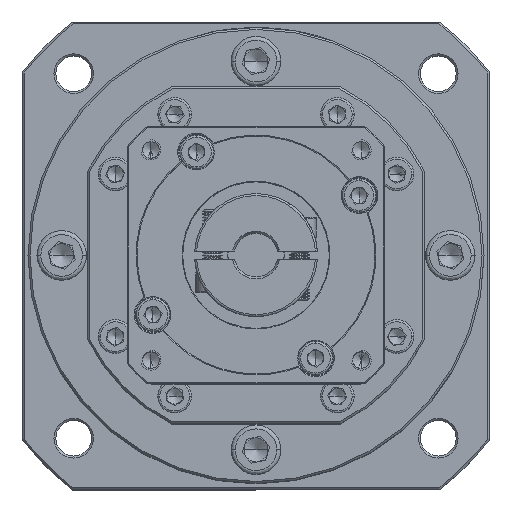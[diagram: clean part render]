
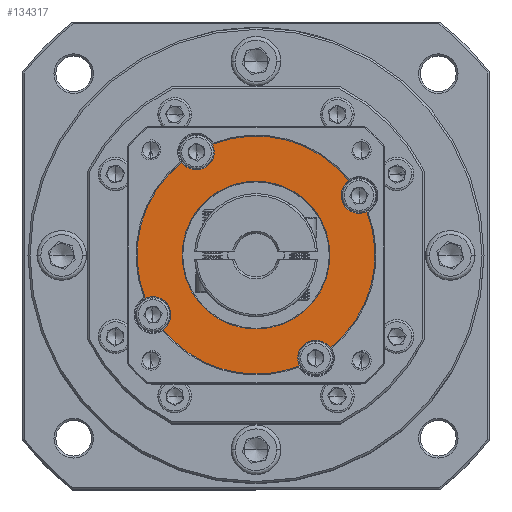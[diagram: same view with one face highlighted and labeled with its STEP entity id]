
A CAD part, top view. The second image highlights one B-rep face of the part: STEP entity #134317.
In plain terms, the highlighted planar face has unit normal (0, 0, 1).
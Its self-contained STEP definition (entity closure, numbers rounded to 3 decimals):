
#809 = CARTESIAN_POINT ( 'NONE',  ( 69.693, 82.025, -16.603 ) ) ;
#1561 = CARTESIAN_POINT ( 'NONE',  ( 58.748, 109.958, -16.603 ) ) ;
#1669 = VERTEX_POINT ( 'NONE', #48424 ) ;
#3085 = ORIENTED_EDGE ( 'NONE', *, *, #122668, .T. ) ;
#3277 = DIRECTION ( 'NONE',  ( 0., -1., 0. ) ) ;
#3468 = DIRECTION ( 'NONE',  ( 0., 0., 1. ) ) ;
#3667 = DIRECTION ( 'NONE',  ( 0., -1., 0. ) ) ;
#5246 = EDGE_CURVE ( 'NONE', #8863, #108288, #106325, .T. ) ;
#5723 = AXIS2_PLACEMENT_3D ( 'NONE', #49468, #121911, #132477 ) ;
#6743 = ORIENTED_EDGE ( 'NONE', *, *, #86055, .F. ) ;
#8026 = DIRECTION ( 'NONE',  ( 0., 0., -1. ) ) ;
#8863 = VERTEX_POINT ( 'NONE', #88912 ) ;
#10269 = CARTESIAN_POINT ( 'NONE',  ( 30.816, 99.013, -16.603 ) ) ;
#11952 = CARTESIAN_POINT ( 'NONE',  ( 43.748, 131.438, -16.603 ) ) ;
#13994 = DIRECTION ( 'NONE',  ( 0., -1., 0. ) ) ;
#14475 = DIRECTION ( 'NONE',  ( 0., -1., 0. ) ) ;
#16569 = AXIS2_PLACEMENT_3D ( 'NONE', #112404, #60762, #102314 ) ;
#17296 = ORIENTED_EDGE ( 'NONE', *, *, #124668, .T. ) ;
#17521 = CIRCLE ( 'NONE', #106790, 4.5 ) ;
#17674 = VERTEX_POINT ( 'NONE', #39072 ) ;
#18236 = VERTEX_POINT ( 'NONE', #10269 ) ;
#19118 = DIRECTION ( 'NONE',  ( 0., -1., 0. ) ) ;
#19137 = CARTESIAN_POINT ( 'NONE',  ( 58.748, 109.958, -16.603 ) ) ;
#21164 = AXIS2_PLACEMENT_3D ( 'NONE', #31840, #21229, #115762 ) ;
#21229 = DIRECTION ( 'NONE',  ( 0., 0., 1. ) ) ;
#22404 = CIRCLE ( 'NONE', #65323, 18.644 ) ;
#23412 = ORIENTED_EDGE ( 'NONE', *, *, #134586, .F. ) ;
#23440 = DIRECTION ( 'NONE',  ( 0., 0., 1. ) ) ;
#28796 = CIRCLE ( 'NONE', #41911, 30. ) ;
#31840 = CARTESIAN_POINT ( 'NONE',  ( 32.767, 94.958, -16.603 ) ) ;
#32312 = VERTEX_POINT ( 'NONE', #83420 ) ;
#34211 = DIRECTION ( 'NONE',  ( 0., -1., 0. ) ) ;
#35899 = CIRCLE ( 'NONE', #136851, 30. ) ;
#36101 = DIRECTION ( 'NONE',  ( 0., 0., -1. ) ) ;
#36482 = CIRCLE ( 'NONE', #126169, 18.644 ) ;
#36525 = CARTESIAN_POINT ( 'NONE',  ( 58.748, 79.958, -16.603 ) ) ;
#39072 = CARTESIAN_POINT ( 'NONE',  ( 35.303, 91.24, -16.603 ) ) ;
#39150 = EDGE_CURVE ( 'NONE', #119012, #1669, #104087, .T. ) ;
#39399 = DIRECTION ( 'NONE',  ( 0., -1., 0. ) ) ;
#40262 = EDGE_CURVE ( 'NONE', #77946, #18236, #17521, .T. ) ;
#40332 = AXIS2_PLACEMENT_3D ( 'NONE', #1561, #98359, #34211 ) ;
#40335 = EDGE_CURVE ( 'NONE', #43334, #70088, #22404, .T. ) ;
#40736 = EDGE_CURVE ( 'NONE', #78671, #74391, #122000, .T. ) ;
#41227 = CIRCLE ( 'NONE', #43699, 30. ) ;
#41336 = CARTESIAN_POINT ( 'NONE',  ( 58.748, 91.313, -16.603 ) ) ;
#41559 = DIRECTION ( 'NONE',  ( 0., 0., 1. ) ) ;
#41911 = AXIS2_PLACEMENT_3D ( 'NONE', #101955, #121730, #59018 ) ;
#43334 = VERTEX_POINT ( 'NONE', #79107 ) ;
#43699 = AXIS2_PLACEMENT_3D ( 'NONE', #55749, #46498, #3277 ) ;
#45693 = EDGE_CURVE ( 'NONE', #17674, #85439, #41227, .T. ) ;
#45704 = CIRCLE ( 'NONE', #50151, 4.5 ) ;
#46498 = DIRECTION ( 'NONE',  ( 0., 0., 1. ) ) ;
#48424 = CARTESIAN_POINT ( 'NONE',  ( 47.803, 137.89, -16.603 ) ) ;
#49468 = CARTESIAN_POINT ( 'NONE',  ( 84.729, 124.958, -16.603 ) ) ;
#50151 = AXIS2_PLACEMENT_3D ( 'NONE', #123522, #60377, #80664 ) ;
#50762 = CARTESIAN_POINT ( 'NONE',  ( 32.767, 99.458, -16.603 ) ) ;
#52240 = ORIENTED_EDGE ( 'NONE', *, *, #40262, .F. ) ;
#52795 = EDGE_LOOP ( 'NONE', ( #23412, #96170, #52240, #119943, #64776, #17296, #63284, #6743, #60415, #96073, #97947, #3085, #109592 ) ) ;
#55716 = DIRECTION ( 'NONE',  ( 0., 0., 1. ) ) ;
#55749 = CARTESIAN_POINT ( 'NONE',  ( 58.748, 109.958, -16.603 ) ) ;
#58644 = ORIENTED_EDGE ( 'NONE', *, *, #91731, .T. ) ;
#59018 = DIRECTION ( 'NONE',  ( 0., -1., 0. ) ) ;
#60377 = DIRECTION ( 'NONE',  ( 0., 0., 1. ) ) ;
#60415 = ORIENTED_EDGE ( 'NONE', *, *, #119122, .T. ) ;
#60762 = DIRECTION ( 'NONE',  ( 0., 0., 1. ) ) ;
#61986 = DIRECTION ( 'NONE',  ( 0., 0., 1. ) ) ;
#63284 = ORIENTED_EDGE ( 'NONE', *, *, #40736, .F. ) ;
#64776 = ORIENTED_EDGE ( 'NONE', *, *, #45693, .T. ) ;
#64943 = AXIS2_PLACEMENT_3D ( 'NONE', #115831, #41559, #115392 ) ;
#65323 = AXIS2_PLACEMENT_3D ( 'NONE', #67041, #36101, #13994 ) ;
#66347 = DIRECTION ( 'NONE',  ( 0., -1., 0. ) ) ;
#67041 = CARTESIAN_POINT ( 'NONE',  ( 58.748, 109.958, -16.603 ) ) ;
#67380 = CARTESIAN_POINT ( 'NONE',  ( 77.465, 86.513, -16.603 ) ) ;
#70088 = VERTEX_POINT ( 'NONE', #41336 ) ;
#71423 = AXIS2_PLACEMENT_3D ( 'NONE', #19137, #61986, #39399 ) ;
#71800 = PLANE ( 'NONE',  #16569 ) ;
#73501 = CIRCLE ( 'NONE', #64943, 4.5 ) ;
#74391 = VERTEX_POINT ( 'NONE', #809 ) ;
#77946 = VERTEX_POINT ( 'NONE', #50762 ) ;
#78671 = VERTEX_POINT ( 'NONE', #85195 ) ;
#79107 = CARTESIAN_POINT ( 'NONE',  ( 58.748, 128.602, -16.603 ) ) ;
#80664 = DIRECTION ( 'NONE',  ( 0., -1., 0. ) ) ;
#81248 = CIRCLE ( 'NONE', #21164, 4.5 ) ;
#83188 = CARTESIAN_POINT ( 'NONE',  ( 58.748, 109.958, -16.603 ) ) ;
#83420 = CARTESIAN_POINT ( 'NONE',  ( 40.03, 133.402, -16.603 ) ) ;
#85195 = CARTESIAN_POINT ( 'NONE',  ( 73.748, 88.477, -16.603 ) ) ;
#85439 = VERTEX_POINT ( 'NONE', #36525 ) ;
#86055 = EDGE_CURVE ( 'NONE', #115204, #78671, #45704, .T. ) ;
#88010 = CARTESIAN_POINT ( 'NONE',  ( 43.748, 135.938, -16.603 ) ) ;
#88912 = CARTESIAN_POINT ( 'NONE',  ( 82.193, 128.675, -16.603 ) ) ;
#91731 = EDGE_CURVE ( 'NONE', #70088, #43334, #36482, .T. ) ;
#92372 = VERTEX_POINT ( 'NONE', #118035 ) ;
#94449 = ORIENTED_EDGE ( 'NONE', *, *, #40335, .T. ) ;
#95692 = FACE_OUTER_BOUND ( 'NONE', #52795, .T. ) ;
#95744 = DIRECTION ( 'NONE',  ( 0., 0., 1. ) ) ;
#96073 = ORIENTED_EDGE ( 'NONE', *, *, #122267, .F. ) ;
#96170 = ORIENTED_EDGE ( 'NONE', *, *, #101982, .T. ) ;
#97755 = CARTESIAN_POINT ( 'NONE',  ( 58.748, 109.958, -16.603 ) ) ;
#97947 = ORIENTED_EDGE ( 'NONE', *, *, #5246, .F. ) ;
#98359 = DIRECTION ( 'NONE',  ( 0., 0., 1. ) ) ;
#98543 = DIRECTION ( 'NONE',  ( 0., -1., 0. ) ) ;
#100916 = EDGE_LOOP ( 'NONE', ( #58644, #94449 ) ) ;
#101955 = CARTESIAN_POINT ( 'NONE',  ( 58.748, 109.958, -16.603 ) ) ;
#101982 = EDGE_CURVE ( 'NONE', #32312, #18236, #118350, .T. ) ;
#102314 = DIRECTION ( 'NONE',  ( 0., -1., 0. ) ) ;
#104087 = CIRCLE ( 'NONE', #120632, 4.5 ) ;
#104821 = CARTESIAN_POINT ( 'NONE',  ( 73.748, 83.977, -16.603 ) ) ;
#106325 = CIRCLE ( 'NONE', #5723, 4.5 ) ;
#106790 = AXIS2_PLACEMENT_3D ( 'NONE', #120970, #3468, #14475 ) ;
#107217 = CIRCLE ( 'NONE', #129622, 4.5 ) ;
#108288 = VERTEX_POINT ( 'NONE', #115924 ) ;
#108695 = CARTESIAN_POINT ( 'NONE',  ( 43.748, 135.938, -16.603 ) ) ;
#108839 = EDGE_CURVE ( 'NONE', #17674, #77946, #81248, .T. ) ;
#109592 = ORIENTED_EDGE ( 'NONE', *, *, #39150, .F. ) ;
#112404 = CARTESIAN_POINT ( 'NONE',  ( 58.748, 109.958, -16.603 ) ) ;
#113813 = FACE_BOUND ( 'NONE', #100916, .T. ) ;
#115204 = VERTEX_POINT ( 'NONE', #67380 ) ;
#115375 = DIRECTION ( 'NONE',  ( 0., 0., 1. ) ) ;
#115392 = DIRECTION ( 'NONE',  ( 0., -1., 0. ) ) ;
#115762 = DIRECTION ( 'NONE',  ( 0., -1., 0. ) ) ;
#115831 = CARTESIAN_POINT ( 'NONE',  ( 84.729, 124.958, -16.603 ) ) ;
#115924 = CARTESIAN_POINT ( 'NONE',  ( 84.729, 120.458, -16.603 ) ) ;
#118035 = CARTESIAN_POINT ( 'NONE',  ( 86.68, 120.903, -16.603 ) ) ;
#118350 = CIRCLE ( 'NONE', #40332, 30. ) ;
#119012 = VERTEX_POINT ( 'NONE', #11952 ) ;
#119122 = EDGE_CURVE ( 'NONE', #115204, #92372, #35899, .T. ) ;
#119943 = ORIENTED_EDGE ( 'NONE', *, *, #108839, .F. ) ;
#120632 = AXIS2_PLACEMENT_3D ( 'NONE', #88010, #23440, #3667 ) ;
#120885 = CIRCLE ( 'NONE', #71423, 30. ) ;
#120970 = CARTESIAN_POINT ( 'NONE',  ( 32.767, 94.958, -16.603 ) ) ;
#121730 = DIRECTION ( 'NONE',  ( 0., 0., 1. ) ) ;
#121911 = DIRECTION ( 'NONE',  ( 0., 0., 1. ) ) ;
#122000 = CIRCLE ( 'NONE', #128899, 4.5 ) ;
#122267 = EDGE_CURVE ( 'NONE', #108288, #92372, #73501, .T. ) ;
#122668 = EDGE_CURVE ( 'NONE', #8863, #1669, #28796, .T. ) ;
#123522 = CARTESIAN_POINT ( 'NONE',  ( 73.748, 83.977, -16.603 ) ) ;
#124668 = EDGE_CURVE ( 'NONE', #85439, #74391, #120885, .T. ) ;
#126169 = AXIS2_PLACEMENT_3D ( 'NONE', #83188, #8026, #19118 ) ;
#128899 = AXIS2_PLACEMENT_3D ( 'NONE', #104821, #115375, #136553 ) ;
#129622 = AXIS2_PLACEMENT_3D ( 'NONE', #108695, #95744, #98543 ) ;
#132477 = DIRECTION ( 'NONE',  ( 0., -1., 0. ) ) ;
#134317 = ADVANCED_FACE ( 'NONE', ( #113813, #95692 ), #71800, .T. ) ;
#134586 = EDGE_CURVE ( 'NONE', #32312, #119012, #107217, .T. ) ;
#136553 = DIRECTION ( 'NONE',  ( 0., -1., 0. ) ) ;
#136851 = AXIS2_PLACEMENT_3D ( 'NONE', #97755, #55716, #66347 ) ;
